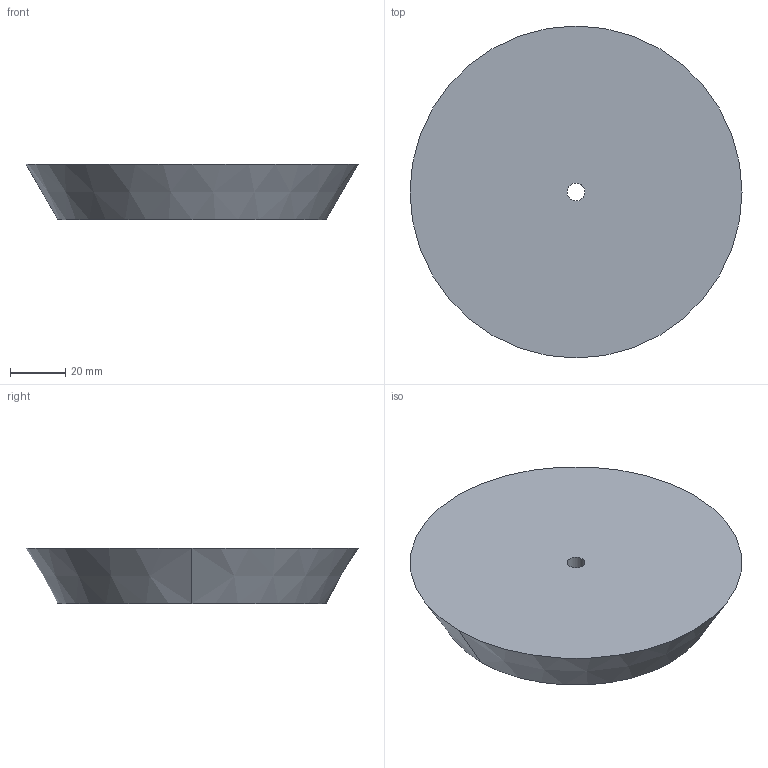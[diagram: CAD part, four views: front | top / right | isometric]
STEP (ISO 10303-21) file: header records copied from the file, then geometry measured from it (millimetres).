
FILE_DESCRIPTION(('CATIA V5 STEP Exchange'),'2;1');
FILE_NAME('C:\Users\andres.garcia\OneDrive - IQS\ASIGNATURAS\DAO\Controles\2223\c0\c1-CANYADA__JuanAngel-tapon.stp','2023-02-03T08:22:03+00:00',('none'),('none'),'CATIA Version 5-6 Release 2013 SP6','CATIA V5 STEP AP203','none');
FILE_SCHEMA(('CONFIG_CONTROL_DESIGN'));
Length unit declared in the file: millimetre
Products named in the file (1): c1-CANYADA__JuanAngel-tapon
Bounding box: 120 x 120 x 20 mm (x, y, z)
Volume: 184792.4 mm3; surface area: 26895.7 mm2
Topology: 1 solids, 1 shells, 6 faces, 12 edges, 8 vertices
Faces by surface type: cylinder 2, plane 2, cone 2
Entity records: 196 total; most frequent: CARTESIAN_POINT 26, ORIENTED_EDGE 24, DIRECTION 22, AXIS2_PLACEMENT_3D 14, EDGE_CURVE 12, CIRCLE 8, EDGE_LOOP 8, VERTEX_POINT 8
